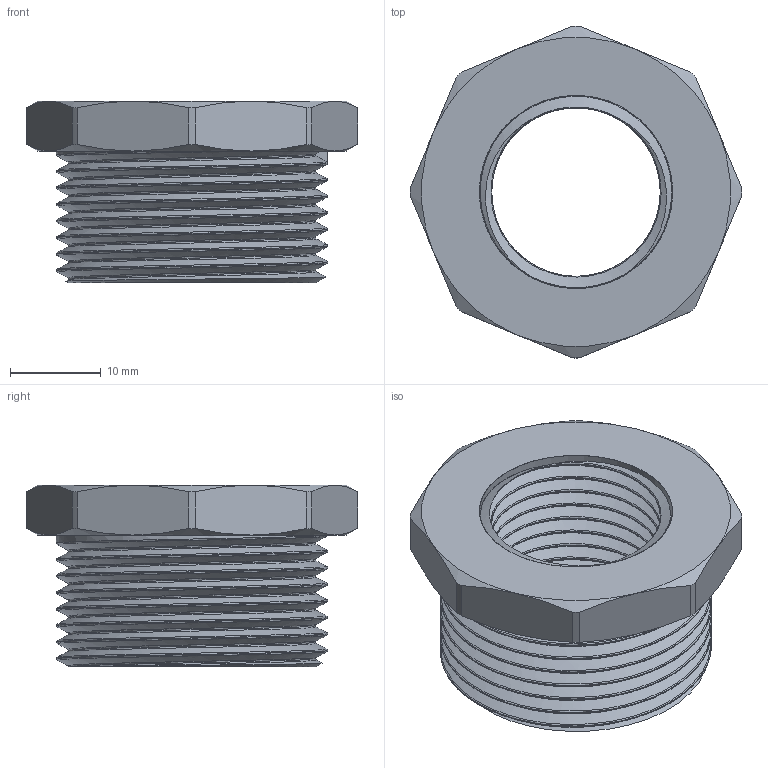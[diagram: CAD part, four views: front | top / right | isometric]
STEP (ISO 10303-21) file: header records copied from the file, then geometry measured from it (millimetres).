
FILE_DESCRIPTION(/* description */ (''),/* implementation_level */ '2;1');
FILE_NAME(/* name */ 'C:\Users\Doom\Desktop\Фадотех\Резьба\PF01C 18.03.2020\PF01C 18.03.2020.stp',/* time_stamp */ '2022-01-13T00:36:24+02:00',/* author */ ('Doom'),/* organization */ (''),/* preprocessor_version */ 'ST-DEVELOPER v18',/* originating_system */ 'Autodesk Inventor 2020',/* authorisation */ '');
FILE_SCHEMA (('AUTOMOTIVE_DESIGN { 1 0 10303 214 3 1 1 }'));
Length unit declared in the file: millimetre
Products named in the file (1): PF01C 18.03.2020
Bounding box: 36.5 x 36.5 x 20 mm (x, y, z)
Volume: 7330.7 mm3; surface area: 10836.9 mm2
Topology: 3 solids, 3 shells, 76 faces, 203 edges, 132 vertices
Faces by surface type: cylinder 30, cone 18, plane 16, bspline 12
Full cylindrical faces by diameter (mm): 18.539 x7, 21.229 x2, 25 x1, 27.151 x2, 29.841 x6
Entity records: 10878 total; most frequent: CARTESIAN_POINT 9158, ORIENTED_EDGE 398, DIRECTION 291, EDGE_CURVE 199, VERTEX_POINT 130, AXIS2_PLACEMENT_3D 125, EDGE_LOOP 83, FACE_OUTER_BOUND 76
